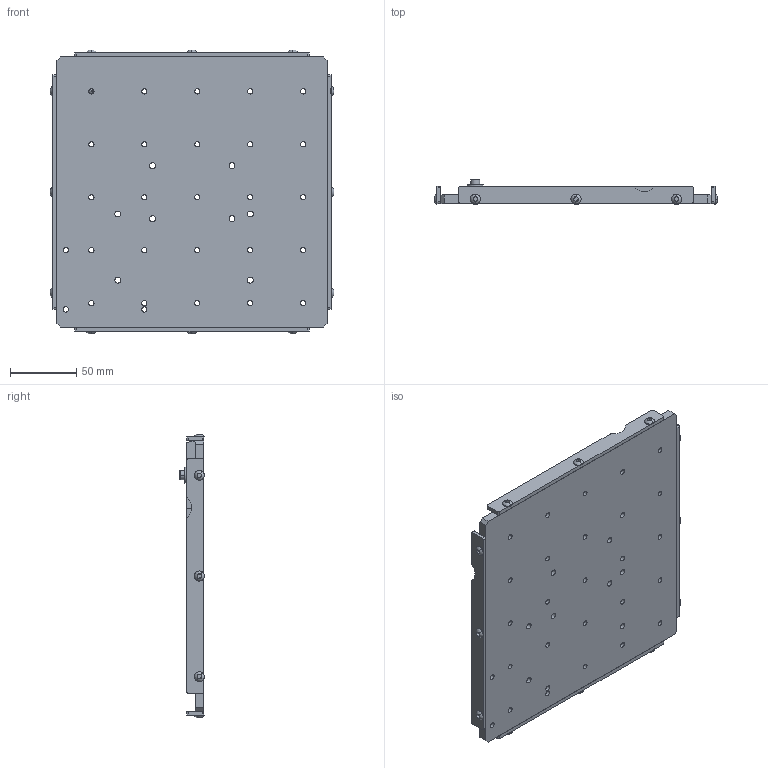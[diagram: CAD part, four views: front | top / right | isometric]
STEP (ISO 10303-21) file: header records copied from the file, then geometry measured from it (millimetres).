
FILE_DESCRIPTION (( 'STEP AP214' ), '1' );
FILE_NAME ('44ED238F-C2F9-4553-9D5E-A6BBE690E317.STEP', '2023-02-03T15:48:42', ( '' ), ( '' ), 'SwSTEP 2.0', 'SolidWorks 2022', '' );
FILE_SCHEMA (( 'AUTOMOTIVE_DESIGN' ));
Length unit declared in the file: inch
Products named in the file (1): 44ED238F-C2F9-4553-9D5E-A6BBE690E317
Bounding box: 214.4 x 18.66 x 214.4 mm (x, y, z)
Surface area: 115690.1 mm2 (no closed solid volume)
Topology: 0 solids, 21 shells, 348 faces, 952 edges, 657 vertices
Faces by surface type: plane 167, cylinder 147, torus 26, cone 8
Entity records: 11448 total; most frequent: DIRECTION 2102, CARTESIAN_POINT 2003, ORIENTED_EDGE 1757, EDGE_CURVE 950, AXIS2_PLACEMENT_3D 810, VERTEX_POINT 657, EDGE_LOOP 495, LINE 482
